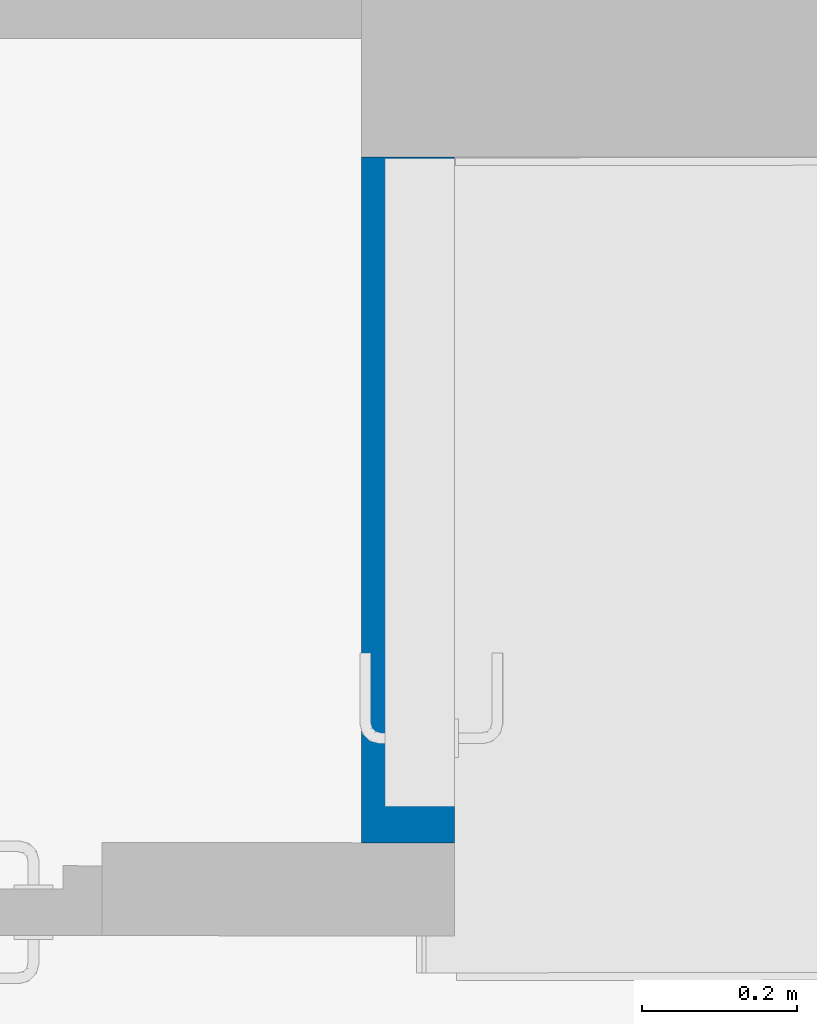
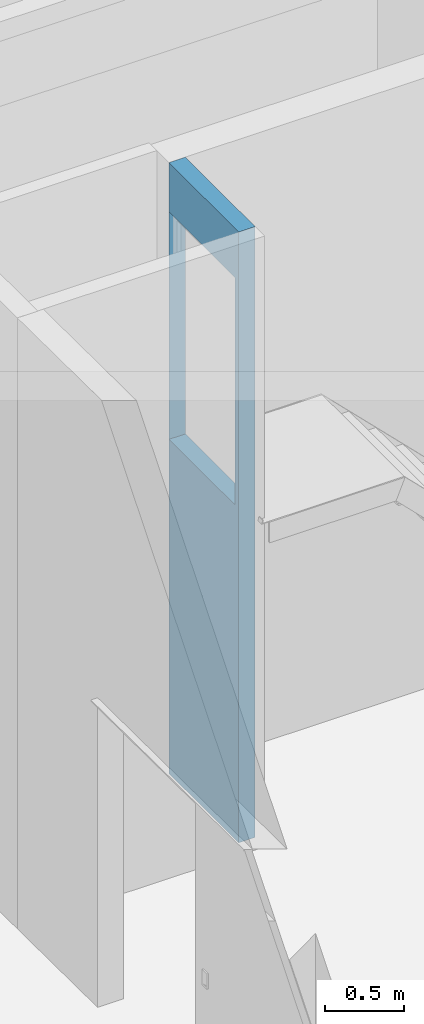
# One storey, part 145 of 301: 1 wall, 1 opening.
"""IFC2X3 building model written with IfcOpenShell, lengths in millimetres."""

from ifc_helpers import new_model, entity, si_unit, converted_unit, derived_unit, money_unit, direction, frame, origin_with_axes, place, context, subcontext, project, spatial, faceted_brep, material, type_object, element, save


model = new_model("IFC2X3")

# Units and contexts
model_context = context("Model", 3, precision=0.01, world=origin_with_axes(), true_north=direction((0.0, 1.0)))
body_context = subcontext(model_context, "Body", "Model", "MODEL_VIEW")
ifc_project = project(units=[si_unit("LENGTHUNIT", "METRE", prefix="MILLI"), si_unit("AREAUNIT", "SQUARE_METRE"), si_unit("VOLUMEUNIT", "CUBIC_METRE"), converted_unit("PLANEANGLEUNIT", "DEGREE", entity("IfcPlaneAngleMeasure", 0.0174532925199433), si_unit("PLANEANGLEUNIT", "RADIAN"), dimensions=[0, 0, 0, 0, 0, 0, 0]), money_unit("EUR"), converted_unit("TIMEUNIT", "Year", entity("IfcTimeMeasure", 31557600.0), si_unit("TIMEUNIT", "SECOND"), dimensions=[0, 0, 1, 0, 0, 0, 0]), si_unit("MASSUNIT", "GRAM", prefix="KILO"), si_unit("THERMODYNAMICTEMPERATUREUNIT", "DEGREE_CELSIUS"), si_unit("LUMINOUSINTENSITYUNIT", "LUMEN"), si_unit("ENERGYUNIT", "JOULE", prefix="MEGA"), derived_unit("THERMALCONDUCTANCEUNIT", [(si_unit("POWERUNIT", "WATT"), 1), (si_unit("LENGTHUNIT", "METRE"), -1), (si_unit("THERMODYNAMICTEMPERATUREUNIT", "KELVIN"), -1)]), derived_unit("SPECIFICHEATCAPACITYUNIT", [(si_unit("ENERGYUNIT", "JOULE"), 1), (si_unit("MASSUNIT", "GRAM", prefix="KILO"), -1), (si_unit("THERMODYNAMICTEMPERATUREUNIT", "KELVIN"), -1)]), derived_unit("MASSDENSITYUNIT", [(si_unit("MASSUNIT", "GRAM", prefix="KILO"), 1), (si_unit("VOLUMEUNIT", "CUBIC_METRE"), -1)])], contexts=[model_context])

# Site, building, storey
site_placement = place(None, frame((0.0, 0.0, 8650.0), z_axis=(0.0, 0.0, 1.0), x_axis=(1.0, 0.0, 0.0)))
site = spatial("IfcSite", under=ifc_project, at=site_placement, Name="43301:001:0844", CompositionType="ELEMENT")
building_placement = place(site_placement, origin_with_axes())
building = spatial("IfcBuilding", under=site, at=building_placement, Name="Kuressaare Ametikooli tuulikute mehaanikute õppekorpus", CompositionType="ELEMENT")
storey_placement = place(building_placement, origin_with_axes())
storey = spatial("IfcBuildingStorey", under=building, at=storey_placement, Name="1.korrus", CompositionType="ELEMENT", Elevation=0.0)

# Wall, opening
ifc_material = material(Name="GENEERILINE - KONSTRUKTRIOON")
wall_type = type_object("IfcWallType", Name="GENEERILINE - KONSTRUKTRIOON 120", PredefinedType="NOTDEFINED")
wall_placement = place(storey_placement, frame((97277.59552001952, 71944.2240258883, 44.99999999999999), z_axis=(0.0, 0.0, 1.0), x_axis=(0.0, -1.0, 0.0)))
wall = element("IfcWall", 1, at=wall_placement, inside=storey, type_object=wall_type, material=ifc_material, Name="SS-XX", context=body_context, shape_type="Brep", body=[
    faceted_brep([(1113.352275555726, -120.0000000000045, 4715.0), (230.000000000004, -120.0000000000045, 4715.0), (230.000000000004, -120.0000000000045, 0.0), (1113.352275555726, -120.0000000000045, 0.0), (1066.70389494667, -120.0000000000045, 2580.0), (231.7038949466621, -120.0000000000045, 2580.0), (231.7038949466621, -120.0000000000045, 4335.257129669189), (1066.70389494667, -120.0000000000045, 4335.257129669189), (1113.477045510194, 0.0, 4715.0), (230.000000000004, 0.0, 4715.0), (230.000000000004, 0.0, 0.0), (1113.477045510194, 0.0, 0.0), (1066.70389494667, 0.0, 2580.0), (231.7038949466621, 0.0, 2580.0), (231.7038949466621, 0.0, 4335.257129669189), (1066.70389494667, 0.0, 4335.257129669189)], [[[0, 1, 2, 3], [4, 5, 6, 7]], [[8, 9, 1, 0]], [[1, 9, 10, 2]], [[3, 2, 10, 11]], [[0, 3, 11, 8]], [[12, 13, 5, 4]], [[13, 14, 6, 5]], [[14, 15, 7, 6]], [[15, 12, 4, 7]], [[11, 10, 9, 8], [12, 15, 14, 13]]]),
])
opening_placement = place(wall_placement, frame((649.2038949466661, 0.0, 2580.0), z_axis=(0.0, 0.0, 1.0), x_axis=(1.0, 0.0, 0.0)))
element("IfcOpeningElement", 2, at=opening_placement, cuts=wall, Name="SU-XX", context=body_context, shape_type="Brep", body=[
    faceted_brep([(-417.500000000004, -121.0000000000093, 1755.257129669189), (-417.500000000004, -121.0000000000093, 0.0), (417.500000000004, -121.0000000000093, 0.0), (417.500000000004, -121.0000000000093, 1755.257129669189), (-417.500000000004, 1.000000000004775, 1755.257129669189), (-417.500000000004, 1.000000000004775, 0.0), (417.500000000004, 1.000000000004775, 0.0), (417.500000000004, 1.000000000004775, 1755.257129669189)], [[[0, 1, 2, 3]], [[4, 5, 1, 0]], [[5, 6, 2, 1]], [[6, 7, 3, 2]], [[7, 4, 0, 3]], [[6, 5, 4, 7]]]),
])

save(model, "model.ifc")
